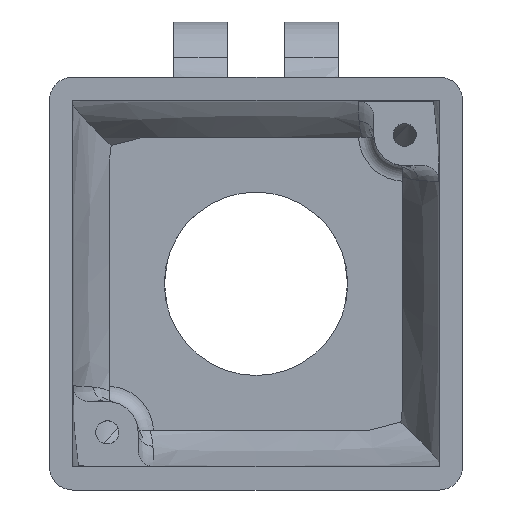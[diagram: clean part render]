
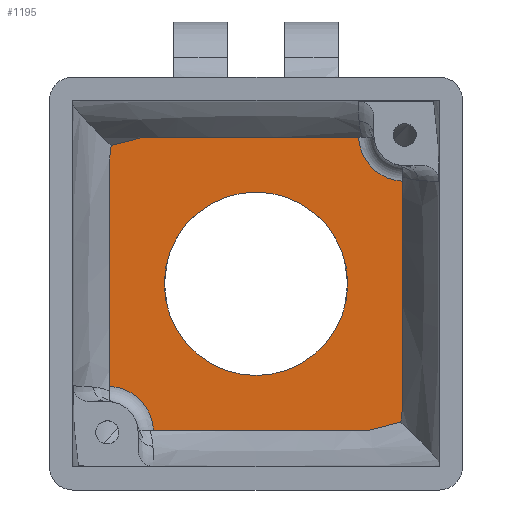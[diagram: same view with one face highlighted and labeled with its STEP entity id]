
A CAD part, top view. The second image highlights one B-rep face of the part: STEP entity #1195.
In plain terms, the highlighted planar face has unit normal (0, 0, 1).
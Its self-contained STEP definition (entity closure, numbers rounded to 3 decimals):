
#34 = EDGE_CURVE ( 'NONE', #2761, #2503, #2279, .T. ) ;
#40 = CARTESIAN_POINT ( 'NONE',  ( -9.5, 9.5, 9. ) ) ;
#50 = CARTESIAN_POINT ( 'NONE',  ( -7.391, 9.5, 9. ) ) ;
#149 = ORIENTED_EDGE ( 'NONE', *, *, #2543, .T. ) ;
#158 = VERTEX_POINT ( 'NONE', #731 ) ;
#159 = CARTESIAN_POINT ( 'NONE',  ( -9.403, 8.977, 9. ) ) ;
#192 = DIRECTION ( 'NONE',  ( 0., 0., 1. ) ) ;
#199 = ORIENTED_EDGE ( 'NONE', *, *, #2222, .T. ) ;
#242 = CARTESIAN_POINT ( 'NONE',  ( 8.069, -9.353, 9. ) ) ;
#300 = VERTEX_POINT ( 'NONE', #1544 ) ;
#313 = EDGE_CURVE ( 'NONE', #1303, #391, #3573, .T. ) ;
#391 = VERTEX_POINT ( 'NONE', #678 ) ;
#419 = CARTESIAN_POINT ( 'NONE',  ( 9.5, 9.5, 9. ) ) ;
#485 = VERTEX_POINT ( 'NONE', #50 ) ;
#678 = CARTESIAN_POINT ( 'NONE',  ( -6.656, -9.5, 9. ) ) ;
#711 = ORIENTED_EDGE ( 'NONE', *, *, #2377, .T. ) ;
#731 = CARTESIAN_POINT ( 'NONE',  ( 6.656, 9.5, 9. ) ) ;
#750 = CARTESIAN_POINT ( 'NONE',  ( 9.403, -8.977, 9. ) ) ;
#757 = DIRECTION ( 'NONE',  ( 0., 0., 1. ) ) ;
#767 = CARTESIAN_POINT ( 'NONE',  ( -9.5, 8.098, 9. ) ) ;
#813 = DIRECTION ( 'NONE',  ( 0., 0., 1. ) ) ;
#880 = CARTESIAN_POINT ( 'NONE',  ( 9.403, -8.977, 9. ) ) ;
#884 = CARTESIAN_POINT ( 'NONE',  ( 9.652, 9.652, 9. ) ) ;
#952 = DIRECTION ( 'NONE',  ( 0., 0., -1. ) ) ;
#979 = AXIS2_PLACEMENT_3D ( 'NONE', #2018, #192, #2316 ) ;
#1003 = CARTESIAN_POINT ( 'NONE',  ( -8.736, 9.167, 9. ) ) ;
#1126 = B_SPLINE_CURVE_WITH_KNOTS ( 'NONE', 3,
 ( #3869, #242, #2696, #880 ),
 .UNSPECIFIED., .F., .F.,
 ( 4, 4 ),
 ( 0., 0.002 ),
 .UNSPECIFIED. ) ;
#1190 = DIRECTION ( 'NONE',  ( 1., 0., 0. ) ) ;
#1195 = ADVANCED_FACE ( 'NONE', ( #3017, #3107 ), #3450, .T. ) ;
#1266 = B_SPLINE_CURVE_WITH_KNOTS ( 'NONE', 3,
 ( #159, #3759, #2581, #767 ),
 .UNSPECIFIED., .F., .F.,
 ( 4, 4 ),
 ( 0., 0.001 ),
 .UNSPECIFIED. ) ;
#1275 = EDGE_LOOP ( 'NONE', ( #3543, #2294 ) ) ;
#1303 = VERTEX_POINT ( 'NONE', #2886 ) ;
#1330 = CARTESIAN_POINT ( 'NONE',  ( 9.5, -8.098, 9. ) ) ;
#1356 = AXIS2_PLACEMENT_3D ( 'NONE', #3436, #813, #1438 ) ;
#1363 = CARTESIAN_POINT ( 'NONE',  ( 9.469, -8.391, 9. ) ) ;
#1405 = CIRCLE ( 'NONE', #1585, 3. ) ;
#1417 = B_SPLINE_CURVE_WITH_KNOTS ( 'NONE', 3,
 ( #750, #2564, #1363, #3455 ),
 .UNSPECIFIED., .F., .F.,
 ( 4, 4 ),
 ( 0., 0.001 ),
 .UNSPECIFIED. ) ;
#1438 = DIRECTION ( 'NONE',  ( 1., 0., 0. ) ) ;
#1465 = ORIENTED_EDGE ( 'NONE', *, *, #1853, .T. ) ;
#1504 = LINE ( 'NONE', #419, #3783 ) ;
#1544 = CARTESIAN_POINT ( 'NONE',  ( -9.403, 8.977, 9. ) ) ;
#1585 = AXIS2_PLACEMENT_3D ( 'NONE', #884, #2991, #1190 ) ;
#1655 = EDGE_CURVE ( 'NONE', #2680, #1776, #1126, .T. ) ;
#1656 = EDGE_CURVE ( 'NONE', #391, #2680, #3753, .T. ) ;
#1688 = ORIENTED_EDGE ( 'NONE', *, *, #3526, .T. ) ;
#1690 = LINE ( 'NONE', #40, #3189 ) ;
#1776 = VERTEX_POINT ( 'NONE', #1856 ) ;
#1802 = DIRECTION ( 'NONE',  ( 0., -1., 0. ) ) ;
#1853 = EDGE_CURVE ( 'NONE', #485, #300, #2520, .T. ) ;
#1856 = CARTESIAN_POINT ( 'NONE',  ( 9.403, -8.977, 9. ) ) ;
#1889 = VERTEX_POINT ( 'NONE', #2808 ) ;
#1892 = ORIENTED_EDGE ( 'NONE', *, *, #3608, .T. ) ;
#1936 = DIRECTION ( 'NONE',  ( 0., 1., 0. ) ) ;
#2018 = CARTESIAN_POINT ( 'NONE',  ( 0., 0., 9. ) ) ;
#2211 = ORIENTED_EDGE ( 'NONE', *, *, #1655, .T. ) ;
#2222 = EDGE_CURVE ( 'NONE', #2614, #1303, #2594, .T. ) ;
#2276 = CARTESIAN_POINT ( 'NONE',  ( 0., 0., 9. ) ) ;
#2279 = CIRCLE ( 'NONE', #1356, 5.95 ) ;
#2294 = ORIENTED_EDGE ( 'NONE', *, *, #2423, .F. ) ;
#2316 = DIRECTION ( 'NONE',  ( 1., 0., 0. ) ) ;
#2377 = EDGE_CURVE ( 'NONE', #2387, #1889, #1504, .T. ) ;
#2387 = VERTEX_POINT ( 'NONE', #1330 ) ;
#2395 = CARTESIAN_POINT ( 'NONE',  ( -9.5, -9.5, 9. ) ) ;
#2423 = EDGE_CURVE ( 'NONE', #2503, #2761, #3703, .T. ) ;
#2503 = VERTEX_POINT ( 'NONE', #3548 ) ;
#2510 = CARTESIAN_POINT ( 'NONE',  ( -8.069, 9.353, 9. ) ) ;
#2520 = B_SPLINE_CURVE_WITH_KNOTS ( 'NONE', 3,
 ( #3091, #2510, #1003, #3101 ),
 .UNSPECIFIED., .F., .F.,
 ( 4, 4 ),
 ( 0., 0.002 ),
 .UNSPECIFIED. ) ;
#2543 = EDGE_CURVE ( 'NONE', #1889, #158, #1405, .T. ) ;
#2564 = CARTESIAN_POINT ( 'NONE',  ( 9.437, -8.684, 9. ) ) ;
#2581 = CARTESIAN_POINT ( 'NONE',  ( -9.469, 8.391, 9. ) ) ;
#2594 = LINE ( 'NONE', #2689, #3192 ) ;
#2614 = VERTEX_POINT ( 'NONE', #3646 ) ;
#2669 = EDGE_CURVE ( 'NONE', #300, #2614, #1266, .T. ) ;
#2680 = VERTEX_POINT ( 'NONE', #3470 ) ;
#2689 = CARTESIAN_POINT ( 'NONE',  ( -9.5, 9.5, 9. ) ) ;
#2696 = CARTESIAN_POINT ( 'NONE',  ( 8.736, -9.167, 9. ) ) ;
#2761 = VERTEX_POINT ( 'NONE', #2895 ) ;
#2764 = CARTESIAN_POINT ( 'NONE',  ( -9.652, -9.652, 9. ) ) ;
#2808 = CARTESIAN_POINT ( 'NONE',  ( 9.5, 6.656, 9. ) ) ;
#2862 = DIRECTION ( 'NONE',  ( 1., 0., 0. ) ) ;
#2886 = CARTESIAN_POINT ( 'NONE',  ( -9.5, -6.656, 9. ) ) ;
#2895 = CARTESIAN_POINT ( 'NONE',  ( 5.95, 0., 9. ) ) ;
#2957 = VECTOR ( 'NONE', #3288, 1000. ) ;
#2983 = ORIENTED_EDGE ( 'NONE', *, *, #2669, .T. ) ;
#2991 = DIRECTION ( 'NONE',  ( 0., 0., -1. ) ) ;
#3017 = FACE_BOUND ( 'NONE', #1275, .T. ) ;
#3036 = EDGE_LOOP ( 'NONE', ( #199, #3412, #3659, #2211, #1892, #711, #149, #1688, #1465, #2983 ) ) ;
#3055 = DIRECTION ( 'NONE',  ( 1., 0., 0. ) ) ;
#3091 = CARTESIAN_POINT ( 'NONE',  ( -7.391, 9.5, 9. ) ) ;
#3101 = CARTESIAN_POINT ( 'NONE',  ( -9.403, 8.977, 9. ) ) ;
#3107 = FACE_OUTER_BOUND ( 'NONE', #3036, .T. ) ;
#3189 = VECTOR ( 'NONE', #3644, 1000. ) ;
#3192 = VECTOR ( 'NONE', #1802, 1000. ) ;
#3288 = DIRECTION ( 'NONE',  ( 1., 0., 0. ) ) ;
#3412 = ORIENTED_EDGE ( 'NONE', *, *, #313, .T. ) ;
#3436 = CARTESIAN_POINT ( 'NONE',  ( 0., 0., 9. ) ) ;
#3450 = PLANE ( 'NONE',  #3613 ) ;
#3455 = CARTESIAN_POINT ( 'NONE',  ( 9.5, -8.098, 9. ) ) ;
#3470 = CARTESIAN_POINT ( 'NONE',  ( 7.391, -9.5, 9. ) ) ;
#3526 = EDGE_CURVE ( 'NONE', #158, #485, #1690, .T. ) ;
#3543 = ORIENTED_EDGE ( 'NONE', *, *, #34, .F. ) ;
#3548 = CARTESIAN_POINT ( 'NONE',  ( -5.95, 0., 9. ) ) ;
#3556 = AXIS2_PLACEMENT_3D ( 'NONE', #2764, #952, #3055 ) ;
#3573 = CIRCLE ( 'NONE', #3556, 3. ) ;
#3608 = EDGE_CURVE ( 'NONE', #1776, #2387, #1417, .T. ) ;
#3613 = AXIS2_PLACEMENT_3D ( 'NONE', #2276, #757, #2862 ) ;
#3644 = DIRECTION ( 'NONE',  ( -1., 0., 0. ) ) ;
#3646 = CARTESIAN_POINT ( 'NONE',  ( -9.5, 8.098, 9. ) ) ;
#3659 = ORIENTED_EDGE ( 'NONE', *, *, #1656, .T. ) ;
#3703 = CIRCLE ( 'NONE', #979, 5.95 ) ;
#3753 = LINE ( 'NONE', #2395, #2957 ) ;
#3759 = CARTESIAN_POINT ( 'NONE',  ( -9.437, 8.684, 9. ) ) ;
#3783 = VECTOR ( 'NONE', #1936, 1000. ) ;
#3869 = CARTESIAN_POINT ( 'NONE',  ( 7.391, -9.5, 9. ) ) ;
